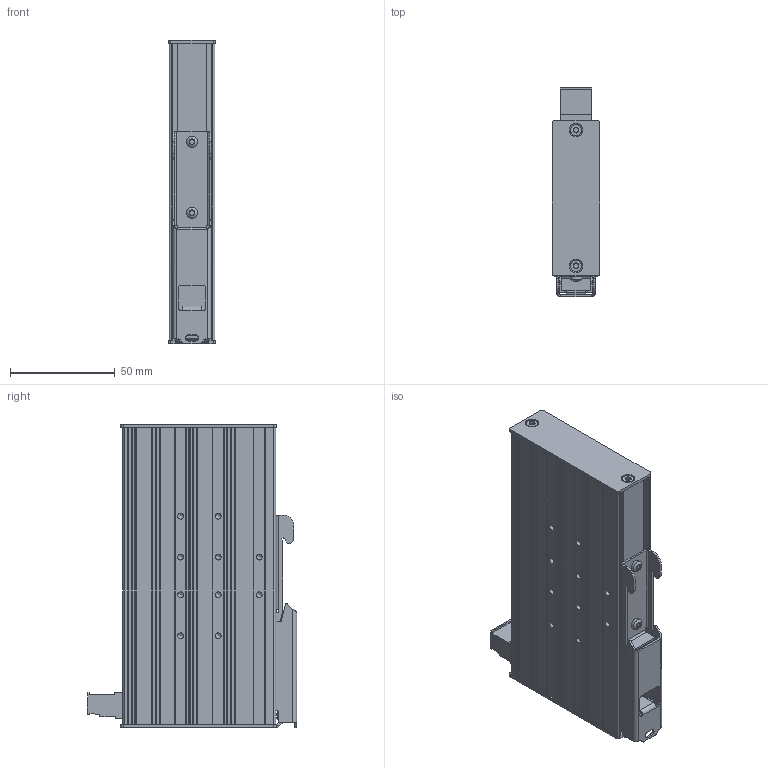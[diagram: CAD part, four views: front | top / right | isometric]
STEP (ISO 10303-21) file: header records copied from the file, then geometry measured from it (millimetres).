
FILE_DESCRIPTION(('TFLEX Exchange Step'),'2;1');
FILE_NAME('TZCA22160XA_NITE-RS8-2100.stp', '2020-04-07T15:23:55+02:00',('User'),('Unknown organisation'),'TFLEX Exchange 2019.0','T-FLEX CAD','Unknown authorisation');
FILE_SCHEMA( ('AUTOMOTIVE_DESIGN { 1 0 10303 214 1 1 1 1 }') );
Length unit declared in the file: millimetre
Products named in the file (1): TZCA22160XA_NITE-RS8-2100
Bounding box: 22.5 x 100.2 x 145.04 mm (x, y, z)
Volume: 220774.2 mm3; surface area: 56767.6 mm2
Topology: 2 solids, 12 shells, 2624 faces, 7289 edges, 4767 vertices
Faces by surface type: plane 1504, cylinder 521, bspline 343, cone 227, torus 22, extrusion 5, sphere 2
Full cylindrical faces by diameter (mm): 0.5 x64, 1.2 x11, 1.3 x3, 2.75 x10, 2.85 x8, 3 x7, 3.2 x4, 3.75 x3, 3.95 x3, 5.5 x10, 6 x4
Entity records: 91761 total; most frequent: CARTESIAN_POINT 25043, ORIENTED_EDGE 14430, DIRECTION 12331, EDGE_CURVE 7215, VECTOR 4865, LINE 4860, VERTEX_POINT 4767, AXIS2_PLACEMENT_3D 3733
